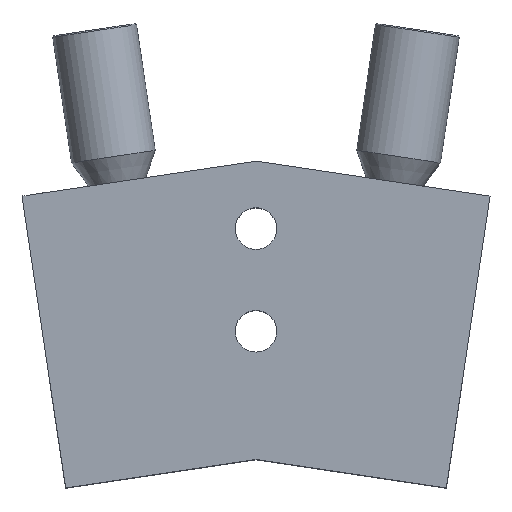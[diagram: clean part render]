
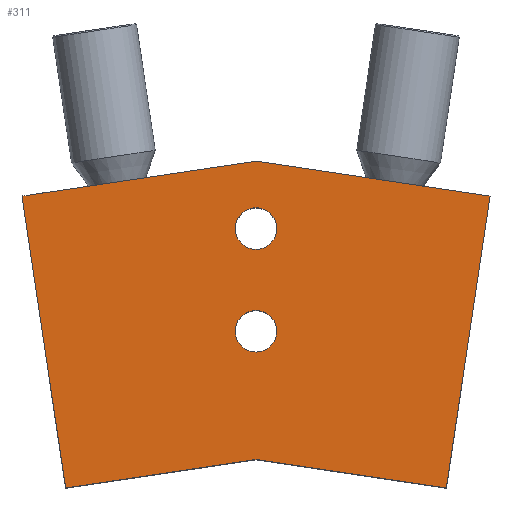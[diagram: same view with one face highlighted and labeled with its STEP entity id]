
A CAD part, top view. The second image highlights one B-rep face of the part: STEP entity #311.
In plain terms, the highlighted planar face has unit normal (0, 0, 1).
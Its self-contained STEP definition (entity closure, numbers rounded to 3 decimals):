
#234=CARTESIAN_POINT('',(8.278,10.892,15.0));
#235=DIRECTION('',(0.0,0.0,1.0));
#236=DIRECTION('',(1.0,0.0,0.0));
#237=AXIS2_PLACEMENT_3D('',#234,#235,#236);
#238=PLANE('',#237);
#239=CARTESIAN_POINT('',(0.,23.255,15.0));
#240=VERTEX_POINT('',#239);
#241=CARTESIAN_POINT('',(18.235,20.53,15.0));
#242=VERTEX_POINT('',#241);
#243=CARTESIAN_POINT('',(0.,23.255,15.0));
#244=DIRECTION('',(0.989,-0.148,0.0));
#245=VECTOR('',#244,18.437);
#246=LINE('',#243,#245);
#247=EDGE_CURVE('',#240,#242,#246,.T.);
#248=ORIENTED_EDGE('',*,*,#247,.F.);
#249=CARTESIAN_POINT('',(-18.235,20.53,15.0));
#250=VERTEX_POINT('',#249);
#251=CARTESIAN_POINT('',(-18.235,20.53,15.0));
#252=DIRECTION('',(0.989,0.148,0.0));
#253=VECTOR('',#252,18.437);
#254=LINE('',#251,#253);
#255=EDGE_CURVE('',#250,#240,#254,.T.);
#256=ORIENTED_EDGE('',*,*,#255,.F.);
#257=CARTESIAN_POINT('',(-14.835,-2.217,15.0));
#258=VERTEX_POINT('',#257);
#259=CARTESIAN_POINT('',(-14.835,-2.217,15.0));
#260=DIRECTION('',(-0.148,0.989,0.0));
#261=VECTOR('',#260,23.);
#262=LINE('',#259,#261);
#263=EDGE_CURVE('',#258,#250,#262,.T.);
#264=ORIENTED_EDGE('',*,*,#263,.F.);
#265=CARTESIAN_POINT('',(0.0,0.0,15.0));
#266=VERTEX_POINT('',#265);
#267=CARTESIAN_POINT('',(0.0,0.0,15.0));
#268=DIRECTION('',(-0.989,-0.148,0.0));
#269=VECTOR('',#268,15.0);
#270=LINE('',#267,#269);
#271=EDGE_CURVE('',#266,#258,#270,.T.);
#272=ORIENTED_EDGE('',*,*,#271,.F.);
#273=CARTESIAN_POINT('',(14.835,-2.217,15.0));
#274=VERTEX_POINT('',#273);
#275=CARTESIAN_POINT('',(14.835,-2.217,15.0));
#276=DIRECTION('',(-0.989,0.148,0.0));
#277=VECTOR('',#276,15.);
#278=LINE('',#275,#277);
#279=EDGE_CURVE('',#274,#266,#278,.T.);
#280=ORIENTED_EDGE('',*,*,#279,.F.);
#281=CARTESIAN_POINT('',(18.235,20.53,15.0));
#282=DIRECTION('',(-0.148,-0.989,0.0));
#283=VECTOR('',#282,23.);
#284=LINE('',#281,#283);
#285=EDGE_CURVE('',#242,#274,#284,.T.);
#286=ORIENTED_EDGE('',*,*,#285,.F.);
#287=EDGE_LOOP('',(#248,#256,#264,#272,#280,#286));
#288=FACE_OUTER_BOUND('',#287,.T.);
#289=CARTESIAN_POINT('',(1.621,10.0,15.0));
#290=VERTEX_POINT('',#289);
#291=CARTESIAN_POINT('',(0.0,10.0,15.0));
#292=DIRECTION('',(0.0,0.0,-1.0));
#293=DIRECTION('',(1.0,0.0,0.0));
#294=AXIS2_PLACEMENT_3D('',#291,#292,#293);
#295=CIRCLE('',#294,1.621);
#296=EDGE_CURVE('',#290,#290,#295,.T.);
#297=ORIENTED_EDGE('',*,*,#296,.T.);
#298=EDGE_LOOP('',(#297));
#299=FACE_BOUND('',#298,.T.);
#300=CARTESIAN_POINT('',(1.621,18.0,15.0));
#301=VERTEX_POINT('',#300);
#302=CARTESIAN_POINT('',(0.0,18.0,15.0));
#303=DIRECTION('',(0.0,0.0,-1.0));
#304=DIRECTION('',(1.0,0.0,0.0));
#305=AXIS2_PLACEMENT_3D('',#302,#303,#304);
#306=CIRCLE('',#305,1.621);
#307=EDGE_CURVE('',#301,#301,#306,.T.);
#308=ORIENTED_EDGE('',*,*,#307,.T.);
#309=EDGE_LOOP('',(#308));
#310=FACE_BOUND('',#309,.T.);
#311=ADVANCED_FACE('',(#288,#299,#310),#238,.T.);
